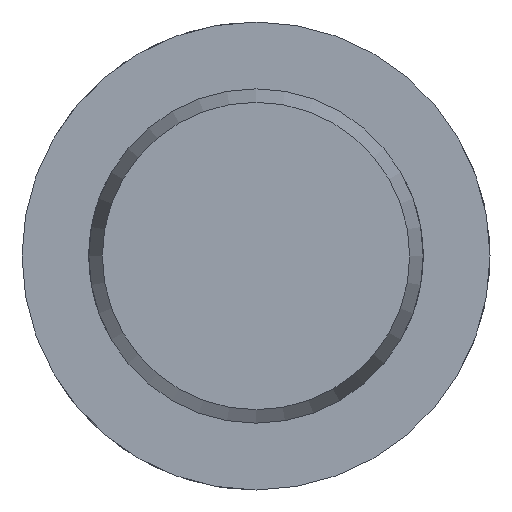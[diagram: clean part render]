
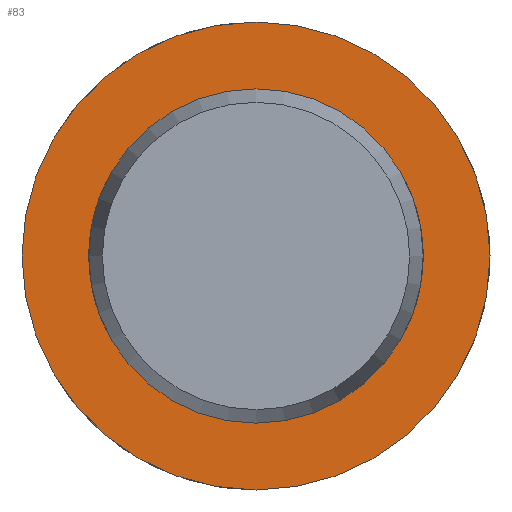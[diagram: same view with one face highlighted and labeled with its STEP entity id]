
A CAD part, left-side view. The second image highlights one B-rep face of the part: STEP entity #83.
In plain terms, the highlighted planar face has unit normal (-1, 0, 0).
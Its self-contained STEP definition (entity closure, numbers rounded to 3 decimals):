
#83 = ADVANCED_FACE( '', ( #128, #129 ), #130, .F. );
#128 = FACE_OUTER_BOUND( '', #204, .T. );
#129 = FACE_BOUND( '', #205, .T. );
#130 = PLANE( '', #206 );
#204 = EDGE_LOOP( '', ( #318 ) );
#205 = EDGE_LOOP( '', ( #319 ) );
#206 = AXIS2_PLACEMENT_3D( '', #320, #321, #322 );
#318 = ORIENTED_EDGE( '', *, *, #481, .F. );
#319 = ORIENTED_EDGE( '', *, *, #471, .T. );
#320 = CARTESIAN_POINT( '', ( 29.6, 5., 0. ) );
#321 = DIRECTION( '', ( 1., 0., 0. ) );
#322 = DIRECTION( '', ( 0., 0., -1. ) );
#471 = EDGE_CURVE( '', #541, #541, #542, .T. );
#481 = EDGE_CURVE( '', #559, #559, #560, .T. );
#541 = VERTEX_POINT( '', #726 );
#542 = CIRCLE( '', #727, 5. );
#559 = VERTEX_POINT( '', #881 );
#560 = CIRCLE( '', #882, 7. );
#726 = CARTESIAN_POINT( '', ( 29.6, 0., -5. ) );
#727 = AXIS2_PLACEMENT_3D( '', #943, #944, #945 );
#881 = CARTESIAN_POINT( '', ( 29.6, 0., -7. ) );
#882 = AXIS2_PLACEMENT_3D( '', #964, #965, #966 );
#943 = CARTESIAN_POINT( '', ( 29.6, 0., 0. ) );
#944 = DIRECTION( '', ( 1., 0., 0. ) );
#945 = DIRECTION( '', ( 0., 0., -1. ) );
#964 = CARTESIAN_POINT( '', ( 29.6, 0., 0. ) );
#965 = DIRECTION( '', ( 1., 0., 0. ) );
#966 = DIRECTION( '', ( 0., 0., -1. ) );
